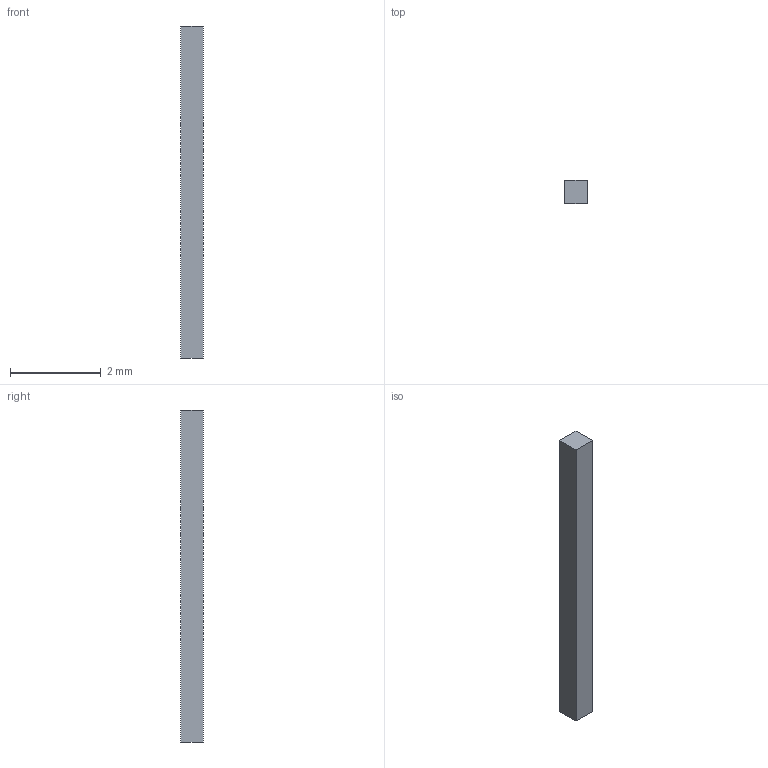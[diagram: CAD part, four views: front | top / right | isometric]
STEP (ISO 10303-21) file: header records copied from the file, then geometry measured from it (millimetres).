
FILE_DESCRIPTION(/* description */ ('STEP AP242','CAx-IF Rec.Pracs.---Representation and Presentation of Product Manufacturing Information (PMI)---4.0---2014-10-13','CAx-IF Rec.Pracs.---3D Tessellated Geometry---0.4---2014-09-14','2;1'),/* implementation_level */ '2;1');
FILE_NAME(/* name */ 'Arm Assembly - Nima 17 40x42x5mm (8)',/* time_stamp */ '2025-06-20T22:34:11Z',/* author */ (''),/* organization */ (''),/* preprocessor_version */ 'ST-DEVELOPER v20',/* originating_system */ 'ONSHAPE BY PTC INC, 1.199',/* authorisation */ ' ');
FILE_SCHEMA (('AP242_MANAGED_MODEL_BASED_3D_ENGINEERING_MIM_LF { 1 0 10303 442 1 1 4 }'));
Length unit declared in the file: metre
Products named in the file (1): Nima 17 40x42x5mm
Bounding box: 0.5 x 0.5 x 7.3 mm (x, y, z)
Volume: 1.8 mm3; surface area: 15.1 mm2
Topology: 1 solids, 1 shells, 6 faces, 12 edges, 8 vertices
Faces by surface type: plane 6
Entity records: 221 total; most frequent: CARTESIAN_POINT 27, DIRECTION 26, ORIENTED_EDGE 24, EDGE_CURVE 12, LINE 12, VECTOR 12, VERTEX_POINT 8, PRESENTATION_STYLE_ASSIGNMENT 7
